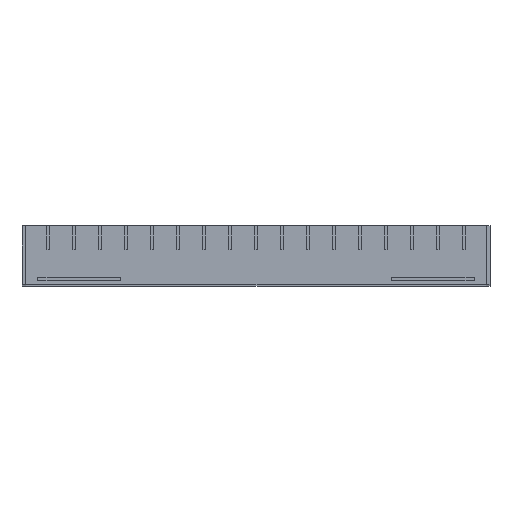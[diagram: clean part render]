
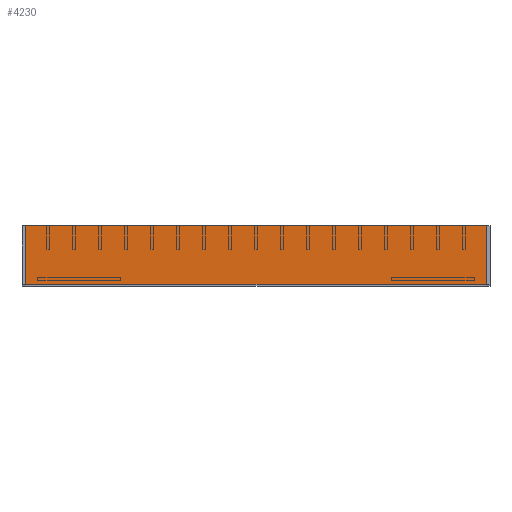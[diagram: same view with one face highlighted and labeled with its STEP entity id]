
A CAD part, top view. The second image highlights one B-rep face of the part: STEP entity #4230.
In plain terms, the highlighted planar face has unit normal (0, 0, 1).
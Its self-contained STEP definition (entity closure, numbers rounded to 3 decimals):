
#217 = CARTESIAN_POINT ( 'NONE',  ( 330.766, 45.593, 3. ) ) ;
#385 = VERTEX_POINT ( 'NONE', #2293 ) ;
#579 = LINE ( 'NONE', #6451, #7542 ) ;
#764 = AXIS2_PLACEMENT_3D ( 'NONE', #6211, #2158, #6890 ) ;
#812 = LINE ( 'NONE', #2445, #5995 ) ;
#1128 = DIRECTION ( 'NONE',  ( 0., 1., 0. ) ) ;
#1440 = EDGE_CURVE ( 'NONE', #4491, #5249, #812, .T. ) ;
#1478 = PLANE ( 'NONE',  #764 ) ;
#1683 = CARTESIAN_POINT ( 'NONE',  ( 330.766, -4.407, 3. ) ) ;
#2158 = DIRECTION ( 'NONE',  ( 0., 0., 1. ) ) ;
#2293 = CARTESIAN_POINT ( 'NONE',  ( -63.234, 45.593, 3. ) ) ;
#2445 = CARTESIAN_POINT ( 'NONE',  ( 330.766, 45.593, 3. ) ) ;
#2741 = EDGE_LOOP ( 'NONE', ( #3372, #8100, #6721, #7649 ) ) ;
#2945 = LINE ( 'NONE', #7726, #7705 ) ;
#3086 = EDGE_CURVE ( 'NONE', #5883, #4491, #579, .T. ) ;
#3329 = CARTESIAN_POINT ( 'NONE',  ( -63.234, 45.593, 3. ) ) ;
#3372 = ORIENTED_EDGE ( 'NONE', *, *, #8370, .T. ) ;
#3783 = FACE_OUTER_BOUND ( 'NONE', #2741, .T. ) ;
#4230 = ADVANCED_FACE ( 'NONE', ( #3783 ), #1478, .T. ) ;
#4434 = DIRECTION ( 'NONE',  ( 1., 0., 0. ) ) ;
#4491 = VERTEX_POINT ( 'NONE', #1683 ) ;
#4836 = EDGE_CURVE ( 'NONE', #5249, #385, #4931, .T. ) ;
#4931 = LINE ( 'NONE', #3329, #6960 ) ;
#5249 = VERTEX_POINT ( 'NONE', #217 ) ;
#5536 = CARTESIAN_POINT ( 'NONE',  ( -63.234, -4.407, 3. ) ) ;
#5686 = DIRECTION ( 'NONE',  ( 0., -1., 0. ) ) ;
#5883 = VERTEX_POINT ( 'NONE', #5536 ) ;
#5995 = VECTOR ( 'NONE', #1128, 1000. ) ;
#6211 = CARTESIAN_POINT ( 'NONE',  ( -63.234, -4.407, 3. ) ) ;
#6451 = CARTESIAN_POINT ( 'NONE',  ( -63.234, -4.407, 3. ) ) ;
#6721 = ORIENTED_EDGE ( 'NONE', *, *, #1440, .T. ) ;
#6890 = DIRECTION ( 'NONE',  ( 1., 0., 0. ) ) ;
#6960 = VECTOR ( 'NONE', #8670, 1000. ) ;
#7542 = VECTOR ( 'NONE', #4434, 1000. ) ;
#7649 = ORIENTED_EDGE ( 'NONE', *, *, #4836, .T. ) ;
#7705 = VECTOR ( 'NONE', #5686, 1000. ) ;
#7726 = CARTESIAN_POINT ( 'NONE',  ( -63.234, 45.593, 3. ) ) ;
#8100 = ORIENTED_EDGE ( 'NONE', *, *, #3086, .T. ) ;
#8370 = EDGE_CURVE ( 'NONE', #385, #5883, #2945, .T. ) ;
#8670 = DIRECTION ( 'NONE',  ( -1., 0., 0. ) ) ;
